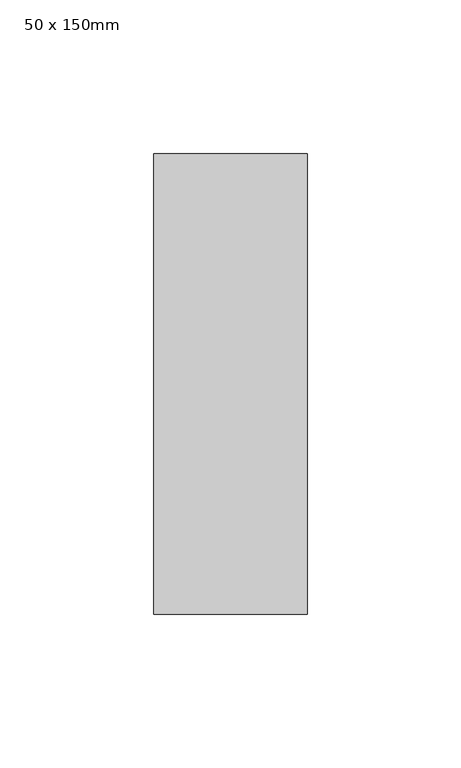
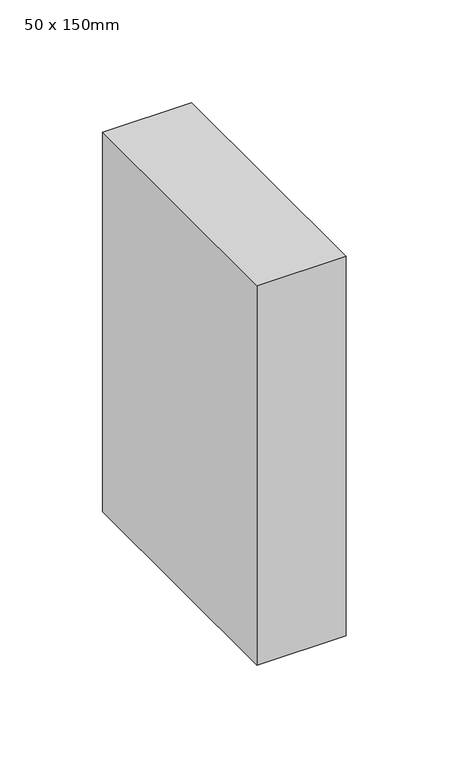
"""IFC4 building model written with IfcOpenShell, lengths in millimetres: member geometry, Прямоугольный импост : 50 x 150mm."""

from ifc_helpers import new_model, si_unit, frame, origin, place, context, project, spatial, polyline, outline, extrude, source, transform, mapped, element, save


def member_50_x_150mm_a08a6a8c(model_context):
    return source(origin(), model_context, "Body", "SweptSolid", [
        extrude(outline(polyline([(0.0, 75.0), (0.0, -75.0), (-50.0, -75.0), (-50.0, 75.0), (0.0, 75.0)])), frame((0.0, 0.0, -225.25), z_axis=(0.0, 0.0, 1.0), x_axis=(1.0, 0.0, 0.0)), (0.0, 0.0, 1.0), 225.25),
    ])


if __name__ == "__main__":
    model = new_model("IFC4")
    model_context = context("Model", 3, world=origin())
    ifc_project = project(units=[si_unit("LENGTHUNIT", "METRE", prefix="MILLI")], contexts=[model_context])
    site = spatial("IfcSite", under=ifc_project)
    building = spatial("IfcBuilding", under=site)
    placement = place(None, origin())
    member_50_x_150mm_shape = member_50_x_150mm_a08a6a8c(model_context)
    element("IfcMember", 1, ObjectType="Прямоугольный импост : 50 x 150mm", at=placement, inside=building, context=model_context, shape_type="MappedRepresentation", body=[
        mapped(member_50_x_150mm_shape, transform((0.0, 0.0, 0.0), x_axis=(1.0, 0.0, 0.0), y_axis=(0.0, 1.0, 0.0), z_axis=(0.0, 0.0, 1.0))),
    ])
    save(model, "model.ifc")
